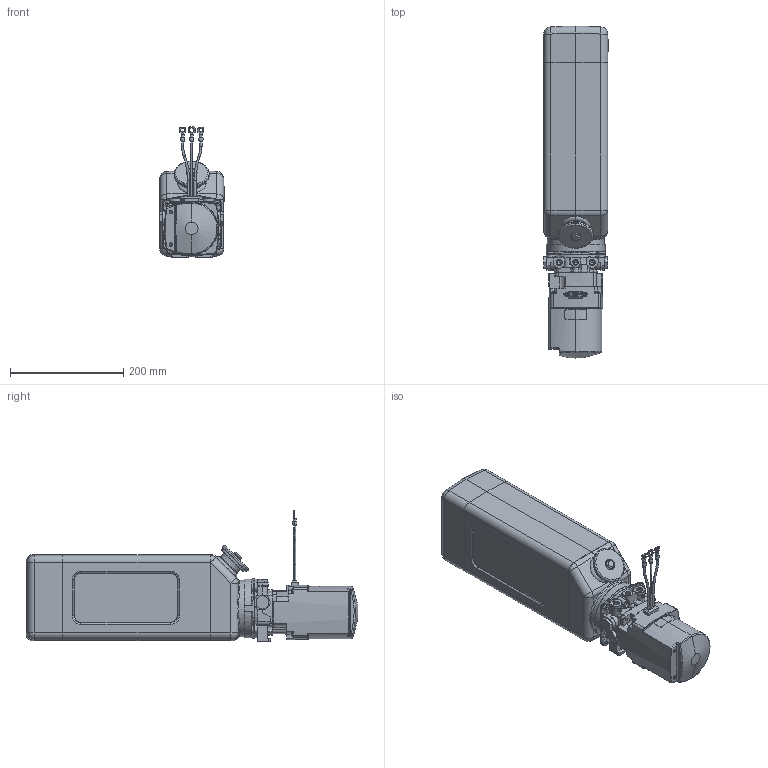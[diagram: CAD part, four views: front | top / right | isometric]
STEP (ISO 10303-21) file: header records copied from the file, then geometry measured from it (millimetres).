
FILE_DESCRIPTION((''),'2;1');
FILE_NAME('108-AM-BI-R_ASM','2008-12-12T',('JP10250a'),('OILDYNE'),'PRO/ENGINEER BY PARAMETRIC TECHNOLOGY CORPORATION, 2005380','PRO/ENGINEER BY PARAMETRIC TECHNOLOGY CORPORATION, 2005380','');
FILE_SCHEMA(('CONFIG_CONTROL_DESIGN'));
Length unit declared in the file: millimetre
Products named in the file (23): 108_ADAPTER_BLANK; 413767; 414239_AF0; 413926_AF0; 414231; 414231_AF0; 413924_AF0_ASM; 413925_ASM; 414230_AF0; 414228; 414229; 413738; 413923_ASM; 361182; 410728; 773764_ASM; 413740; 413741; 413127; 402664; 775556_ASM; 413742_ASM; 108-AM-BI-R_ASM
Assembly tree (25 placements, depth 5):
  108-AM-BI-R_ASM
    108_ADAPTER_BLANK
    413767
    413923_ASM
      413925_ASM
        414239_AF0
        413924_AF0_ASM
          413926_AF0
          414231  x3
          414231_AF0
      414230_AF0
      414228
      414229
      413738
    773764_ASM  x2
      361182
      410728
    413742_ASM
      413740
      413741
      775556_ASM
        413127
        402664
Bounding box: 113.66 x 585.82 x 231.13 mm (x, y, z)
Volume: 1858647 mm3; surface area: 599116.2 mm2
Topology: 20 solids, 20 shells, 1700 faces, 4373 edges, 2780 vertices
Faces by surface type: plane 742, cylinder 547, torus 171, cone 160, bspline 56, sphere 24
Entity records: 55296 total; most frequent: CARTESIAN_POINT 14416, DIRECTION 8608, ORIENTED_EDGE 8454, EDGE_CURVE 4227, AXIS2_PLACEMENT_3D 3210, VERTEX_POINT 2698, VECTOR 2188, LINE 2188
